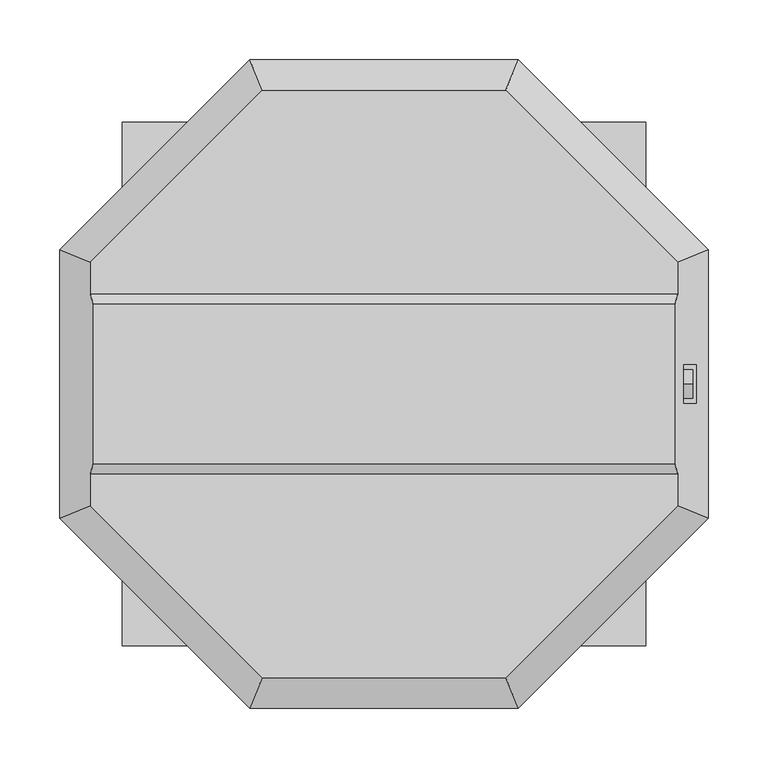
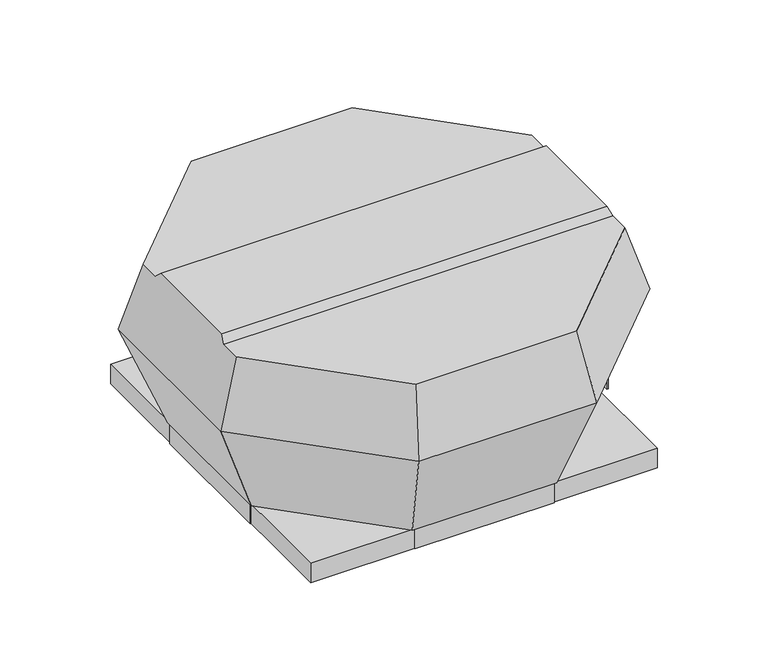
"""IFC4 building model written with IfcOpenShell, lengths in millimetres: unitary equipment geometry, VE-Wentylator-ParaForma-Harmann-VIVER_PS_EC-Wywiewny : 2-280/1900EC."""

from ifc_helpers import new_model, si_unit, point, frame, frame_2d, origin, place, context, project, spatial, circle_curve, trimmed, segment, composite_curve, outline, extrude, faceted_brep, source, transform, mapped, element, save


def unitary_equipment_f77e3ca6(model_context):
    return source(origin(), model_context, "Body", "SolidModel", [
        faceted_brep([(243.0056659, -66.5, 223.5), (243.0056659, 66.5, 223.5), (-243.0056659, 66.5, 223.5), (-243.0056659, -66.5, 223.5), (245.5255193, 74.9, 215.1), (-245.5255193, 74.9, 215.1), (245.5255193, -74.9, 215.1), (-245.5255193, -74.9, 215.1), (101.7, -245.5255193, 215.1), (245.5255193, -101.7, 215.1), (-245.5255193, -101.7, 215.1), (-101.7, -245.5255193, 215.1), (245.5255193, 101.7, 215.1), (101.7, 245.5255193, 215.1), (-101.7, 245.5255193, 215.1), (-245.5255193, 101.7, 215.1), (112.15, -270.754051, 131.0), (270.754051, -112.15, 131.0), (270.754051, 112.15, 131.0), (260.9746202, -16.0, 163.6), (250.565226, -16.0, 198.3), (250.565226, 16.0, 198.3), (260.9746202, 16.0, 163.6), (112.15, 270.754051, 131.0), (-112.15, 270.754051, 131.0), (-270.754051, 112.15, 131.0), (-270.754051, -112.15, 131.0), (-112.15, -270.754051, 131.0), (247.9, -16.0, 163.6), (247.9, 16.0, 163.6), (247.9, 16.0, 198.3), (247.9, -16.0, 198.3), (91.2, -220.1762769, 1.0), (-91.2, -220.1762769, 1.0), (-220.1762769, -91.2, 1.0), (-220.1762769, 91.2, 1.0), (-91.2, 220.1762769, 1.0), (91.2, 220.1762769, 1.0), (220.1762769, 91.2, 1.0), (220.1762769, -91.2, 1.0)], [[[0, 1, 2, 3]], [[1, 4, 5, 2]], [[6, 0, 3, 7]], [[8, 9, 6, 7, 10, 11]], [[12, 13, 14, 15, 5, 4]], [[9, 8, 16, 17]], [[9, 17, 18, 12, 4, 1, 0, 6], [19, 20, 21, 22]], [[13, 12, 18, 23]], [[14, 13, 23, 24]], [[15, 14, 24, 25]], [[15, 25, 26, 10, 7, 3, 2, 5]], [[11, 10, 26, 27]], [[8, 11, 27, 16]], [[28, 29, 30, 31]], [[28, 31, 20, 19]], [[31, 30, 21, 20]], [[30, 29, 22, 21]], [[29, 28, 19, 22]], [[32, 33, 34, 35, 36, 37, 38, 39]], [[32, 39, 17, 16]], [[39, 38, 18, 17]], [[38, 37, 23, 18]], [[37, 36, 24, 23]], [[36, 35, 25, 24]], [[35, 34, 26, 25]], [[34, 33, 27, 26]], [[33, 32, 16, 27]]]),
        faceted_brep([(217.7, 217.7, -25.0), (217.7, 217.7, 0.0), (-217.7, 217.7, 0.0), (-217.7, 217.7, -25.0), (218.7, 218.7, 1.0), (218.7, 218.7, -25.0), (-218.7, 218.7, -25.0), (-218.7, 218.7, 1.0), (-217.7, -217.7, 0.0), (-217.7, -217.7, -25.0), (-218.7, -218.7, -25.0), (-218.7, -218.7, 1.0), (217.7, -217.7, 0.0), (217.7, -217.7, -25.0), (218.7, -218.7, -25.0), (218.7, -218.7, 1.0)], [[[0, 1, 2, 3]], [[4, 5, 6, 7]], [[3, 2, 8, 9]], [[7, 6, 10, 11]], [[9, 8, 12, 13]], [[11, 10, 14, 15]], [[13, 12, 1, 0]], [[5, 14, 10, 6], [3, 9, 13, 0]], [[15, 14, 5, 4]], [[7, 11, 15, 4]], [[1, 12, 8, 2]]]),
        extrude(outline(composite_curve([segment(trimmed(circle_curve(frame_2d((0.0, 180.9)), 12.0), [point((0.0, 192.9))], [point((0.0, 168.9))], False, "CARTESIAN"), True, "CONTINUOUS"), segment(trimmed(circle_curve(frame_2d((0.0, 180.9)), 12.0), [point((0.0, 168.9))], [point((0.0, 192.9))], False, "CARTESIAN"), True, "CONTINUOUS")], self_intersect=False)), frame((247.9, 0.0, 0.0), z_axis=(1.0, 0.0, 0.0), x_axis=(0.0, 1.0, 0.0)), (0.0, 0.0, 1.0), 10.0),
        faceted_brep([(-218.7, -88.0, -25.0), (-219.7, -88.0, -25.0), (-219.7, 88.0, -25.0), (-218.7, 88.0, -25.0), (-218.7, -88.0, 1.0), (-218.7, 88.0, 1.0), (-219.7, 88.0, 1.0), (-219.7, -88.0, 1.0)], [[[0, 1, 2, 3]], [[4, 5, 6, 7]], [[1, 0, 4, 7]], [[2, 1, 7, 6]], [[3, 2, 6, 5]], [[0, 3, 5, 4]]]),
        faceted_brep([(219.7, -88.0, -25.0), (218.7, -88.0, -25.0), (218.7, 88.0, -25.0), (219.7, 88.0, -25.0), (219.7, 88.0, 1.0), (218.7, 88.0, 1.0), (218.7, -88.0, 1.0), (219.7, -88.0, 1.0), (219.7, -84.8, 1.0), (243.7, -68.1, 1.0), (243.7, 68.1, 1.0), (219.7, 84.8, 1.0), (219.7, 84.8, 0.0), (219.7, -84.8, 0.0), (243.7, 68.1, 0.0), (241.6, 68.1, 0.0), (241.6, -68.1, 0.0), (243.7, -68.1, 0.0), (243.7, -68.1, -19.1), (243.7, 68.1, -19.1), (241.6, -68.1, -19.1), (241.6, 68.1, -19.1)], [[[0, 1, 2, 3]], [[4, 5, 6, 7, 8, 9, 10, 11]], [[1, 0, 7, 6]], [[2, 1, 6, 5]], [[3, 2, 5, 4]], [[0, 3, 4, 11, 12, 13, 8, 7]], [[12, 14, 15, 16, 17, 13]], [[14, 12, 11, 10]], [[10, 9, 17, 18, 19, 14]], [[13, 17, 9, 8]], [[20, 16, 15, 21]], [[16, 20, 18, 17]], [[21, 15, 14, 19]], [[20, 21, 19, 18]]]),
        faceted_brep([(88.0, 218.7, -25.0), (-88.0, 218.7, -25.0), (-88.0, 219.7, -25.0), (88.0, 219.7, -25.0), (88.0, 218.7, 1.0), (88.0, 219.7, 1.0), (-88.0, 219.7, 1.0), (-88.0, 218.7, 1.0)], [[[0, 1, 2, 3]], [[4, 5, 6, 7]], [[1, 0, 4, 7]], [[2, 1, 7, 6]], [[3, 2, 6, 5]], [[0, 3, 5, 4]]]),
        faceted_brep([(88.0, -219.7, -25.0), (-88.0, -219.7, -25.0), (-88.0, -218.7, -25.0), (88.0, -218.7, -25.0), (88.0, -219.7, 1.0), (88.0, -218.7, 1.0), (-88.0, -218.7, 1.0), (-88.0, -219.7, 1.0)], [[[0, 1, 2, 3]], [[4, 5, 6, 7]], [[1, 0, 4, 7]], [[2, 1, 7, 6]], [[3, 2, 6, 5]], [[0, 3, 5, 4]]]),
    ])


if __name__ == "__main__":
    model = new_model("IFC4")
    model_context = context("Model", 3, world=origin())
    ifc_project = project(units=[si_unit("LENGTHUNIT", "METRE", prefix="MILLI")], contexts=[model_context])
    site = spatial("IfcSite", under=ifc_project)
    building = spatial("IfcBuilding", under=site)
    placement = place(None, origin())
    unitary_equipment_shape = unitary_equipment_f77e3ca6(model_context)
    element("IfcUnitaryEquipment", 1, ObjectType="VE-Wentylator-ParaForma-Harmann-VIVER_PS_EC-Wywiewny : 2-280/1900EC", at=placement, inside=building, context=model_context, shape_type="MappedRepresentation", body=[
        mapped(unitary_equipment_shape, transform((0.0, 0.0, 0.0), x_axis=(1.0, 0.0, 0.0), y_axis=(0.0, 1.0, 0.0), z_axis=(0.0, 0.0, 1.0))),
    ])
    save(model, "model.ifc")
